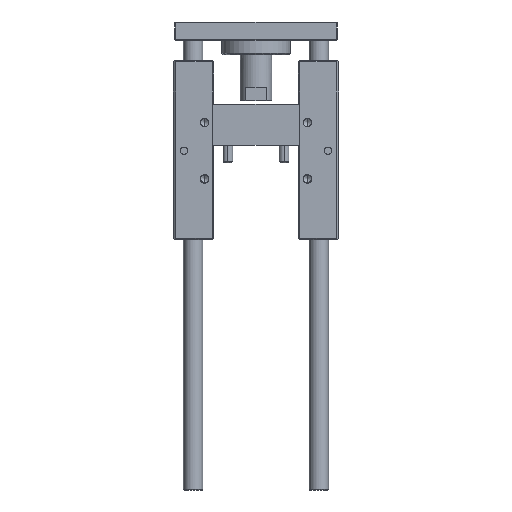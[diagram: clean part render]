
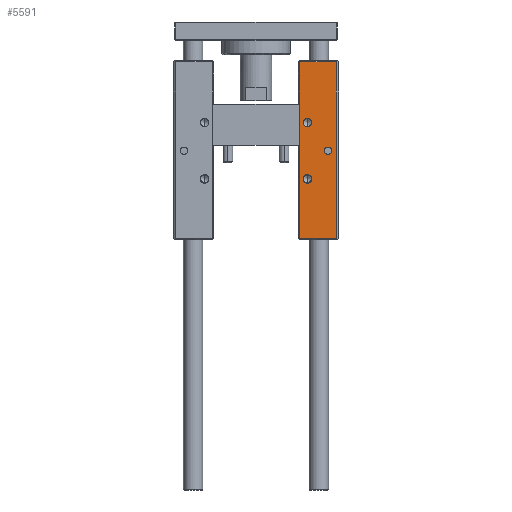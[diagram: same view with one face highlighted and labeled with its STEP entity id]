
A CAD part, front view. The second image highlights one B-rep face of the part: STEP entity #5591.
In plain terms, the highlighted planar face has unit normal (0, -1, 0).
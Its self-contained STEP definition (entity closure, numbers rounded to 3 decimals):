
#314 = EDGE_CURVE ( 'NONE', #518, #28875, #16296, .T. ) ;
#452 = CARTESIAN_POINT ( 'NONE',  ( 464.24, 120.445, -50.627 ) ) ;
#518 = VERTEX_POINT ( 'NONE', #452 ) ;
#644 = EDGE_CURVE ( 'NONE', #18062, #19277, #15513, .T. ) ;
#1824 = LINE ( 'NONE', #27476, #19389 ) ;
#2107 = AXIS2_PLACEMENT_3D ( 'NONE', #11415, #21393, #21192 ) ;
#2770 = ORIENTED_EDGE ( 'NONE', *, *, #30761, .T. ) ;
#3205 = CARTESIAN_POINT ( 'NONE',  ( 488.24, 120.445, -151. ) ) ;
#3394 = ORIENTED_EDGE ( 'NONE', *, *, #15779, .T. ) ;
#3660 = EDGE_LOOP ( 'NONE', ( #15301, #10039, #22380, #7214 ) ) ;
#3850 = DIRECTION ( 'NONE',  ( 0., 1., 0. ) ) ;
#3884 = EDGE_CURVE ( 'NONE', #11869, #18023, #6312, .T. ) ;
#4223 = ORIENTED_EDGE ( 'NONE', *, *, #8048, .T. ) ;
#4225 = CARTESIAN_POINT ( 'NONE',  ( 457.84, 120.445, -4. ) ) ;
#4232 = AXIS2_PLACEMENT_3D ( 'NONE', #15941, #11127, #27687 ) ;
#4891 = DIRECTION ( 'NONE',  ( 0., -1., 0. ) ) ;
#5260 = VECTOR ( 'NONE', #25505, 1000. ) ;
#5591 = ADVANCED_FACE ( 'NONE', ( #7958, #6448, #9423, #16116 ), #26275, .T. ) ;
#5807 = VECTOR ( 'NONE', #23373, 1000. ) ;
#5829 = CARTESIAN_POINT ( 'NONE',  ( 481.24, 120.445, -77.45 ) ) ;
#6234 = VERTEX_POINT ( 'NONE', #8913 ) ;
#6312 = CIRCLE ( 'NONE', #2107, 3.573 ) ;
#6448 = FACE_BOUND ( 'NONE', #12315, .T. ) ;
#6502 = EDGE_LOOP ( 'NONE', ( #12193, #4223 ) ) ;
#6983 = CIRCLE ( 'NONE', #7415, 3. ) ;
#7037 = EDGE_CURVE ( 'NONE', #26549, #19277, #29488, .T. ) ;
#7214 = ORIENTED_EDGE ( 'NONE', *, *, #18959, .T. ) ;
#7415 = AXIS2_PLACEMENT_3D ( 'NONE', #5829, #30089, #19162 ) ;
#7958 = FACE_BOUND ( 'NONE', #6502, .T. ) ;
#8048 = EDGE_CURVE ( 'NONE', #18023, #11869, #27103, .T. ) ;
#8576 = DIRECTION ( 'NONE',  ( 0., 0., 1. ) ) ;
#8799 = AXIS2_PLACEMENT_3D ( 'NONE', #12080, #4891, #24082 ) ;
#8901 = CARTESIAN_POINT ( 'NONE',  ( 490.24, 120.445, -4. ) ) ;
#8913 = CARTESIAN_POINT ( 'NONE',  ( 488.24, 120.445, -150. ) ) ;
#9423 = FACE_BOUND ( 'NONE', #20309, .T. ) ;
#10039 = ORIENTED_EDGE ( 'NONE', *, *, #7037, .F. ) ;
#10940 = EDGE_CURVE ( 'NONE', #14687, #17359, #14077, .T. ) ;
#11127 = DIRECTION ( 'NONE',  ( 0., 1., 0. ) ) ;
#11415 = CARTESIAN_POINT ( 'NONE',  ( 464.24, 120.445, -100.7 ) ) ;
#11422 = CARTESIAN_POINT ( 'NONE',  ( 464.24, 120.445, -54.2 ) ) ;
#11869 = VERTEX_POINT ( 'NONE', #22476 ) ;
#12080 = CARTESIAN_POINT ( 'NONE',  ( 490.24, 120.445, -151. ) ) ;
#12101 = ORIENTED_EDGE ( 'NONE', *, *, #314, .T. ) ;
#12193 = ORIENTED_EDGE ( 'NONE', *, *, #3884, .T. ) ;
#12315 = EDGE_LOOP ( 'NONE', ( #12101, #2770 ) ) ;
#12959 = CARTESIAN_POINT ( 'NONE',  ( 481.24, 120.445, -74.45 ) ) ;
#14077 = CIRCLE ( 'NONE', #18537, 3. ) ;
#14687 = VERTEX_POINT ( 'NONE', #12959 ) ;
#15068 = CIRCLE ( 'NONE', #17717, 3.573 ) ;
#15301 = ORIENTED_EDGE ( 'NONE', *, *, #644, .T. ) ;
#15513 = LINE ( 'NONE', #8901, #5807 ) ;
#15779 = EDGE_CURVE ( 'NONE', #17359, #14687, #6983, .T. ) ;
#15941 = CARTESIAN_POINT ( 'NONE',  ( 464.24, 120.445, -100.7 ) ) ;
#16116 = FACE_OUTER_BOUND ( 'NONE', #3660, .T. ) ;
#16210 = DIRECTION ( 'NONE',  ( 0., 0., 1. ) ) ;
#16296 = CIRCLE ( 'NONE', #16973, 3.573 ) ;
#16973 = AXIS2_PLACEMENT_3D ( 'NONE', #27300, #20126, #8576 ) ;
#17359 = VERTEX_POINT ( 'NONE', #25481 ) ;
#17717 = AXIS2_PLACEMENT_3D ( 'NONE', #11422, #18734, #16210 ) ;
#18023 = VERTEX_POINT ( 'NONE', #23017 ) ;
#18062 = VERTEX_POINT ( 'NONE', #28295 ) ;
#18199 = CARTESIAN_POINT ( 'NONE',  ( 464.24, 120.445, -57.773 ) ) ;
#18537 = AXIS2_PLACEMENT_3D ( 'NONE', #29461, #3850, #20502 ) ;
#18734 = DIRECTION ( 'NONE',  ( 0., 1., 0. ) ) ;
#18959 = EDGE_CURVE ( 'NONE', #6234, #18062, #25439, .T. ) ;
#19162 = DIRECTION ( 'NONE',  ( 0., 0., 1. ) ) ;
#19277 = VERTEX_POINT ( 'NONE', #4225 ) ;
#19389 = VECTOR ( 'NONE', #27574, 1000. ) ;
#19688 = EDGE_CURVE ( 'NONE', #26549, #6234, #1824, .T. ) ;
#20126 = DIRECTION ( 'NONE',  ( 0., 1., 0. ) ) ;
#20309 = EDGE_LOOP ( 'NONE', ( #21741, #3394 ) ) ;
#20502 = DIRECTION ( 'NONE',  ( 0., 0., 1. ) ) ;
#21192 = DIRECTION ( 'NONE',  ( 0., 0., 1. ) ) ;
#21393 = DIRECTION ( 'NONE',  ( 0., 1., 0. ) ) ;
#21741 = ORIENTED_EDGE ( 'NONE', *, *, #10940, .T. ) ;
#22380 = ORIENTED_EDGE ( 'NONE', *, *, #19688, .T. ) ;
#22476 = CARTESIAN_POINT ( 'NONE',  ( 464.24, 120.445, -97.127 ) ) ;
#23017 = CARTESIAN_POINT ( 'NONE',  ( 464.24, 120.445, -104.273 ) ) ;
#23373 = DIRECTION ( 'NONE',  ( -1., 0., 0. ) ) ;
#24082 = DIRECTION ( 'NONE',  ( 0., 0., 1. ) ) ;
#25074 = CARTESIAN_POINT ( 'NONE',  ( 457.84, 120.445, -196.563 ) ) ;
#25439 = LINE ( 'NONE', #3205, #26536 ) ;
#25481 = CARTESIAN_POINT ( 'NONE',  ( 481.24, 120.445, -80.45 ) ) ;
#25505 = DIRECTION ( 'NONE',  ( 0., 0., 1. ) ) ;
#26275 = PLANE ( 'NONE',  #8799 ) ;
#26536 = VECTOR ( 'NONE', #27246, 1000. ) ;
#26549 = VERTEX_POINT ( 'NONE', #28716 ) ;
#27103 = CIRCLE ( 'NONE', #4232, 3.573 ) ;
#27246 = DIRECTION ( 'NONE',  ( 0., 0., 1. ) ) ;
#27300 = CARTESIAN_POINT ( 'NONE',  ( 464.24, 120.445, -54.2 ) ) ;
#27476 = CARTESIAN_POINT ( 'NONE',  ( 490.24, 120.445, -150. ) ) ;
#27574 = DIRECTION ( 'NONE',  ( 1., 0., 0. ) ) ;
#27687 = DIRECTION ( 'NONE',  ( 0., 0., 1. ) ) ;
#28295 = CARTESIAN_POINT ( 'NONE',  ( 488.24, 120.445, -4. ) ) ;
#28716 = CARTESIAN_POINT ( 'NONE',  ( 457.84, 120.445, -150. ) ) ;
#28875 = VERTEX_POINT ( 'NONE', #18199 ) ;
#29461 = CARTESIAN_POINT ( 'NONE',  ( 481.24, 120.445, -77.45 ) ) ;
#29488 = LINE ( 'NONE', #25074, #5260 ) ;
#30089 = DIRECTION ( 'NONE',  ( 0., 1., 0. ) ) ;
#30761 = EDGE_CURVE ( 'NONE', #28875, #518, #15068, .T. ) ;
